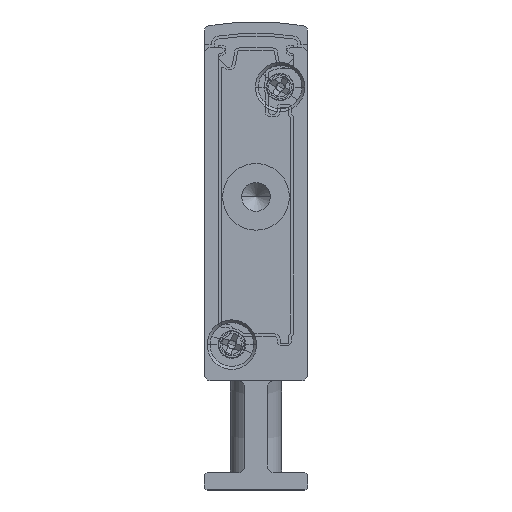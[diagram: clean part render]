
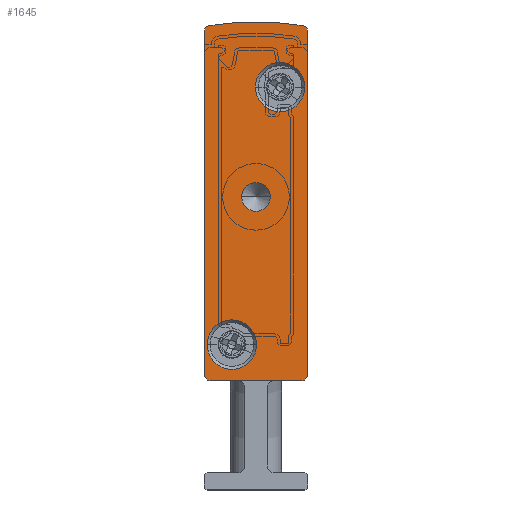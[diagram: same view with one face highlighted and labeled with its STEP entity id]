
A CAD part, front view. The second image highlights one B-rep face of the part: STEP entity #1645.
In plain terms, the highlighted planar face has unit normal (0, -1, 0).
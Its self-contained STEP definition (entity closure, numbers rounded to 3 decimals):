
#58 = AXIS2_PLACEMENT_3D ( 'NONE', #7571, #16508, #10525 ) ;
#441 = ORIENTED_EDGE ( 'NONE', *, *, #15238, .F. ) ;
#582 = FACE_BOUND ( 'NONE', #19491, .T. ) ;
#1035 = VERTEX_POINT ( 'NONE', #12447 ) ;
#1227 = CARTESIAN_POINT ( 'NONE',  ( 0.5, -2.5, 9.5 ) ) ;
#1243 = LINE ( 'NONE', #1227, #4347 ) ;
#1248 = LINE ( 'NONE', #17160, #8878 ) ;
#1516 = DIRECTION ( 'NONE',  ( 0., 1., 0. ) ) ;
#1645 = ADVANCED_FACE ( 'NONE', ( #11532, #19576, #16497, #582 ), #11360, .F. ) ;
#1698 = DIRECTION ( 'NONE',  ( 1., 0., 0. ) ) ;
#1964 = VERTEX_POINT ( 'NONE', #9639 ) ;
#2013 = CIRCLE ( 'NONE', #4904, 2.15 ) ;
#2074 = CIRCLE ( 'NONE', #5179, 0.5 ) ;
#2084 = CARTESIAN_POINT ( 'NONE',  ( 8.592, -2.5, 40.393 ) ) ;
#2219 = VERTEX_POINT ( 'NONE', #19382 ) ;
#2226 = VECTOR ( 'NONE', #10885, 1000. ) ;
#2298 = DIRECTION ( 'NONE',  ( -1., 0., 0. ) ) ;
#2416 = CARTESIAN_POINT ( 'NONE',  ( 0.25, -2.5, 12.65 ) ) ;
#2678 = CIRCLE ( 'NONE', #9979, 1.25 ) ;
#3876 = EDGE_CURVE ( 'NONE', #7736, #4682, #5630, .T. ) ;
#3887 = CARTESIAN_POINT ( 'NONE',  ( 8.75, -2.5, 35.05 ) ) ;
#3956 = DIRECTION ( 'NONE',  ( -1., 0., 0. ) ) ;
#4168 = CARTESIAN_POINT ( 'NONE',  ( 2.4, -2.5, 12.65 ) ) ;
#4347 = VECTOR ( 'NONE', #19438, 1000. ) ;
#4682 = VERTEX_POINT ( 'NONE', #7977 ) ;
#4683 = ORIENTED_EDGE ( 'NONE', *, *, #7327, .F. ) ;
#4754 = ORIENTED_EDGE ( 'NONE', *, *, #18692, .F. ) ;
#4805 = CARTESIAN_POINT ( 'NONE',  ( 6.6, -2.5, 35.05 ) ) ;
#4904 = AXIS2_PLACEMENT_3D ( 'NONE', #4805, #10770, #10899 ) ;
#5041 = CARTESIAN_POINT ( 'NONE',  ( 0.5, -2.5, 39.902 ) ) ;
#5179 = AXIS2_PLACEMENT_3D ( 'NONE', #11975, #7533, #8842 ) ;
#5394 = VERTEX_POINT ( 'NONE', #18993 ) ;
#5555 = AXIS2_PLACEMENT_3D ( 'NONE', #5041, #15673, #11144 ) ;
#5629 = CARTESIAN_POINT ( 'NONE',  ( 8.5, -2.5, 9.5 ) ) ;
#5630 = CIRCLE ( 'NONE', #58, 0.5 ) ;
#5862 = VERTEX_POINT ( 'NONE', #15129 ) ;
#6023 = DIRECTION ( 'NONE',  ( -1., 0., 0. ) ) ;
#6304 = DIRECTION ( 'NONE',  ( 1., 0., 0. ) ) ;
#6371 = DIRECTION ( 'NONE',  ( 0., -1., 0. ) ) ;
#6445 = CARTESIAN_POINT ( 'NONE',  ( 2.4, -2.5, 12.65 ) ) ;
#6729 = CARTESIAN_POINT ( 'NONE',  ( 4.5, -2.5, 25.5 ) ) ;
#6751 = DIRECTION ( 'NONE',  ( 0., 1., 0. ) ) ;
#6796 = VERTEX_POINT ( 'NONE', #2416 ) ;
#6797 = CIRCLE ( 'NONE', #13902, 1.25 ) ;
#6878 = VERTEX_POINT ( 'NONE', #5629 ) ;
#6882 = DIRECTION ( 'NONE',  ( 0., 0., -1. ) ) ;
#6934 = CARTESIAN_POINT ( 'NONE',  ( 0.5, -2.5, 10. ) ) ;
#6953 = CARTESIAN_POINT ( 'NONE',  ( 0.5, -2.5, 39.902 ) ) ;
#7052 = AXIS2_PLACEMENT_3D ( 'NONE', #8812, #7370, #6023 ) ;
#7068 = VERTEX_POINT ( 'NONE', #9586 ) ;
#7327 = EDGE_CURVE ( 'NONE', #10161, #6878, #2074, .T. ) ;
#7370 = DIRECTION ( 'NONE',  ( 0., 1., 0. ) ) ;
#7533 = DIRECTION ( 'NONE',  ( 0., 1., 0. ) ) ;
#7571 = CARTESIAN_POINT ( 'NONE',  ( 8.5, -2.5, 39.902 ) ) ;
#7597 = EDGE_CURVE ( 'NONE', #17828, #5394, #12009, .T. ) ;
#7610 = DIRECTION ( 'NONE',  ( -1., 0., 0. ) ) ;
#7736 = VERTEX_POINT ( 'NONE', #2084 ) ;
#7779 = AXIS2_PLACEMENT_3D ( 'NONE', #4168, #13301, #8758 ) ;
#7928 = ORIENTED_EDGE ( 'NONE', *, *, #8765, .F. ) ;
#7977 = CARTESIAN_POINT ( 'NONE',  ( 9., -2.5, 39.902 ) ) ;
#8458 = DIRECTION ( 'NONE',  ( -1., 0., 0. ) ) ;
#8728 = CARTESIAN_POINT ( 'NONE',  ( 4.55, -2.5, 12.65 ) ) ;
#8751 = ORIENTED_EDGE ( 'NONE', *, *, #15630, .F. ) ;
#8754 = ORIENTED_EDGE ( 'NONE', *, *, #7597, .F. ) ;
#8758 = DIRECTION ( 'NONE',  ( 1., 0., 0. ) ) ;
#8765 = EDGE_CURVE ( 'NONE', #13990, #6796, #12014, .T. ) ;
#8812 = CARTESIAN_POINT ( 'NONE',  ( 4.5, -2.5, 17.092 ) ) ;
#8842 = DIRECTION ( 'NONE',  ( -1., 0., 0. ) ) ;
#8878 = VECTOR ( 'NONE', #6882, 1000. ) ;
#9586 = CARTESIAN_POINT ( 'NONE',  ( 0., -2.5, 10. ) ) ;
#9639 = CARTESIAN_POINT ( 'NONE',  ( 0.5, -2.5, 9.5 ) ) ;
#9772 = DIRECTION ( 'NONE',  ( 0., 1., 0. ) ) ;
#9950 = CIRCLE ( 'NONE', #13564, 0.5 ) ;
#9979 = AXIS2_PLACEMENT_3D ( 'NONE', #6729, #9772, #2298 ) ;
#10161 = VERTEX_POINT ( 'NONE', #18686 ) ;
#10525 = DIRECTION ( 'NONE',  ( -1., 0., 0. ) ) ;
#10569 = LINE ( 'NONE', #16808, #2226 ) ;
#10770 = DIRECTION ( 'NONE',  ( 0., -1., 0. ) ) ;
#10885 = DIRECTION ( 'NONE',  ( 0., 0., 1. ) ) ;
#10899 = DIRECTION ( 'NONE',  ( 1., 0., 0. ) ) ;
#11143 = EDGE_CURVE ( 'NONE', #5394, #7736, #17222, .T. ) ;
#11144 = DIRECTION ( 'NONE',  ( -1., 0., 0. ) ) ;
#11360 = PLANE ( 'NONE',  #15496 ) ;
#11439 = CIRCLE ( 'NONE', #11961, 2.15 ) ;
#11532 = FACE_BOUND ( 'NONE', #19681, .T. ) ;
#11677 = AXIS2_PLACEMENT_3D ( 'NONE', #6445, #12584, #1698 ) ;
#11961 = AXIS2_PLACEMENT_3D ( 'NONE', #12442, #6371, #6304 ) ;
#11975 = CARTESIAN_POINT ( 'NONE',  ( 8.5, -2.5, 10. ) ) ;
#12009 = CIRCLE ( 'NONE', #5555, 0.5 ) ;
#12014 = CIRCLE ( 'NONE', #7779, 2.15 ) ;
#12112 = ORIENTED_EDGE ( 'NONE', *, *, #14789, .F. ) ;
#12442 = CARTESIAN_POINT ( 'NONE',  ( 6.6, -2.5, 35.05 ) ) ;
#12447 = CARTESIAN_POINT ( 'NONE',  ( 3.25, -2.5, 25.5 ) ) ;
#12584 = DIRECTION ( 'NONE',  ( 0., -1., 0. ) ) ;
#12860 = EDGE_CURVE ( 'NONE', #1964, #7068, #9950, .T. ) ;
#13301 = DIRECTION ( 'NONE',  ( 0., -1., 0. ) ) ;
#13564 = AXIS2_PLACEMENT_3D ( 'NONE', #6934, #17467, #8458 ) ;
#13863 = VERTEX_POINT ( 'NONE', #3887 ) ;
#13902 = AXIS2_PLACEMENT_3D ( 'NONE', #18129, #1516, #7610 ) ;
#13990 = VERTEX_POINT ( 'NONE', #8728 ) ;
#14789 = EDGE_CURVE ( 'NONE', #6796, #13990, #17646, .T. ) ;
#14831 = ORIENTED_EDGE ( 'NONE', *, *, #16434, .T. ) ;
#15129 = CARTESIAN_POINT ( 'NONE',  ( 5.75, -2.5, 25.5 ) ) ;
#15238 = EDGE_CURVE ( 'NONE', #7068, #17828, #10569, .T. ) ;
#15496 = AXIS2_PLACEMENT_3D ( 'NONE', #6953, #6751, #3956 ) ;
#15523 = ORIENTED_EDGE ( 'NONE', *, *, #18906, .F. ) ;
#15630 = EDGE_CURVE ( 'NONE', #4682, #10161, #1248, .T. ) ;
#15673 = DIRECTION ( 'NONE',  ( 0., 1., 0. ) ) ;
#15799 = EDGE_LOOP ( 'NONE', ( #8754, #441, #16199, #4754, #4683, #8751, #17953, #18235 ) ) ;
#15959 = EDGE_CURVE ( 'NONE', #13863, #2219, #2013, .T. ) ;
#16071 = EDGE_CURVE ( 'NONE', #1035, #5862, #2678, .T. ) ;
#16199 = ORIENTED_EDGE ( 'NONE', *, *, #12860, .F. ) ;
#16434 = EDGE_CURVE ( 'NONE', #5862, #1035, #6797, .T. ) ;
#16497 = FACE_OUTER_BOUND ( 'NONE', #15799, .T. ) ;
#16508 = DIRECTION ( 'NONE',  ( 0., 1., 0. ) ) ;
#16808 = CARTESIAN_POINT ( 'NONE',  ( 0., -2.5, 39.902 ) ) ;
#17160 = CARTESIAN_POINT ( 'NONE',  ( 9., -2.5, 39.902 ) ) ;
#17222 = CIRCLE ( 'NONE', #7052, 23.658 ) ;
#17467 = DIRECTION ( 'NONE',  ( 0., 1., 0. ) ) ;
#17646 = CIRCLE ( 'NONE', #11677, 2.15 ) ;
#17828 = VERTEX_POINT ( 'NONE', #18546 ) ;
#17953 = ORIENTED_EDGE ( 'NONE', *, *, #3876, .F. ) ;
#17977 = ORIENTED_EDGE ( 'NONE', *, *, #16071, .T. ) ;
#18129 = CARTESIAN_POINT ( 'NONE',  ( 4.5, -2.5, 25.5 ) ) ;
#18235 = ORIENTED_EDGE ( 'NONE', *, *, #11143, .F. ) ;
#18365 = EDGE_LOOP ( 'NONE', ( #7928, #12112 ) ) ;
#18546 = CARTESIAN_POINT ( 'NONE',  ( 0., -2.5, 39.902 ) ) ;
#18686 = CARTESIAN_POINT ( 'NONE',  ( 9., -2.5, 10. ) ) ;
#18692 = EDGE_CURVE ( 'NONE', #6878, #1964, #1243, .T. ) ;
#18720 = ORIENTED_EDGE ( 'NONE', *, *, #15959, .F. ) ;
#18906 = EDGE_CURVE ( 'NONE', #2219, #13863, #11439, .T. ) ;
#18993 = CARTESIAN_POINT ( 'NONE',  ( 0.408, -2.5, 40.393 ) ) ;
#19382 = CARTESIAN_POINT ( 'NONE',  ( 4.45, -2.5, 35.05 ) ) ;
#19438 = DIRECTION ( 'NONE',  ( -1., 0., 0. ) ) ;
#19491 = EDGE_LOOP ( 'NONE', ( #17977, #14831 ) ) ;
#19576 = FACE_BOUND ( 'NONE', #18365, .T. ) ;
#19681 = EDGE_LOOP ( 'NONE', ( #18720, #15523 ) ) ;
